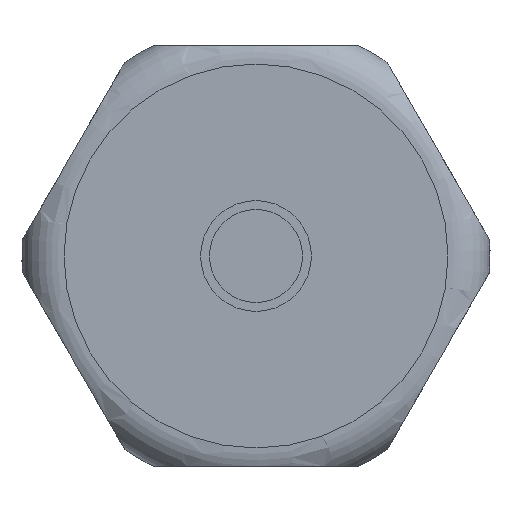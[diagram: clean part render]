
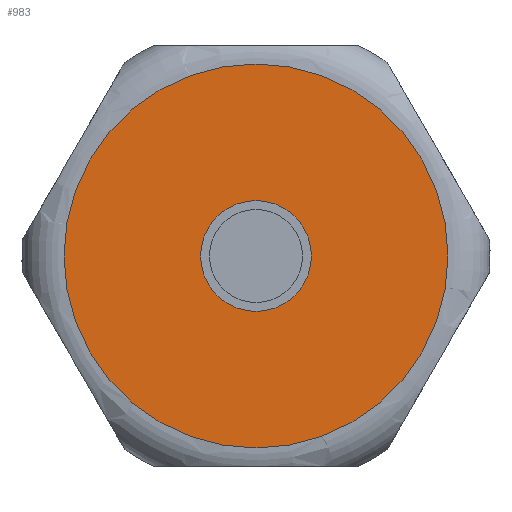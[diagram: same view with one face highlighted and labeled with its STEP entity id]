
A CAD part, left-side view. The second image highlights one B-rep face of the part: STEP entity #983.
In plain terms, the highlighted planar face has unit normal (-1, 0, 0).
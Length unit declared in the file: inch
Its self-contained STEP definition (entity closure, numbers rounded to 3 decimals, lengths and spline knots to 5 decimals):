
#41=FACE_BOUND('',#149,.T.);
#62=PLANE('',#1089);
#94=FACE_OUTER_BOUND('',#148,.T.);
#148=EDGE_LOOP('',(#713,#714));
#149=EDGE_LOOP('',(#715,#716));
#265=CIRCLE('',#1045,0.14764);
#266=CIRCLE('',#1046,0.14764);
#292=CIRCLE('',#1090,0.51181);
#293=CIRCLE('',#1091,0.51181);
#359=VERTEX_POINT('',#1528);
#360=VERTEX_POINT('',#1529);
#399=VERTEX_POINT('',#1789);
#400=VERTEX_POINT('',#1790);
#464=EDGE_CURVE('',#359,#360,#265,.T.);
#465=EDGE_CURVE('',#360,#359,#266,.T.);
#521=EDGE_CURVE('',#399,#400,#292,.T.);
#522=EDGE_CURVE('',#400,#399,#293,.T.);
#713=ORIENTED_EDGE('',*,*,#521,.F.);
#714=ORIENTED_EDGE('',*,*,#522,.F.);
#715=ORIENTED_EDGE('',*,*,#464,.T.);
#716=ORIENTED_EDGE('',*,*,#465,.T.);
#983=ADVANCED_FACE('',(#94,#41),#62,.T.);
#1045=AXIS2_PLACEMENT_3D('',#1530,#1202,#1203);
#1046=AXIS2_PLACEMENT_3D('',#1531,#1204,#1205);
#1089=AXIS2_PLACEMENT_3D('',#1788,#1306,#1307);
#1090=AXIS2_PLACEMENT_3D('',#1791,#1308,#1309);
#1091=AXIS2_PLACEMENT_3D('',#1792,#1310,#1311);
#1202=DIRECTION('center_axis',(1.,0.,0.));
#1203=DIRECTION('ref_axis',(0.,-0.866,0.5));
#1204=DIRECTION('center_axis',(1.,0.,0.));
#1205=DIRECTION('ref_axis',(0.,-0.866,0.5));
#1306=DIRECTION('center_axis',(-1.,0.,0.));
#1307=DIRECTION('ref_axis',(0.,-0.866,0.5));
#1308=DIRECTION('center_axis',(1.,0.,0.));
#1309=DIRECTION('ref_axis',(0.,0.866,-0.5));
#1310=DIRECTION('center_axis',(1.,0.,0.));
#1311=DIRECTION('ref_axis',(0.,0.866,-0.5));
#1528=CARTESIAN_POINT('',(-2.66747,-0.02656,-0.27052));
#1529=CARTESIAN_POINT('',(-2.66747,0.22916,-0.41816));
#1530=CARTESIAN_POINT('Origin',(-2.66747,0.1013,-0.34434));
#1531=CARTESIAN_POINT('Origin',(-2.66747,0.1013,-0.34434));
#1788=CARTESIAN_POINT('Origin',(-2.66747,0.54454,-0.60025));
#1789=CARTESIAN_POINT('',(-2.66747,0.54454,-0.60025));
#1790=CARTESIAN_POINT('',(-2.66747,-0.34194,-0.08844));
#1791=CARTESIAN_POINT('Origin',(-2.66747,0.1013,-0.34434));
#1792=CARTESIAN_POINT('Origin',(-2.66747,0.1013,-0.34434));
